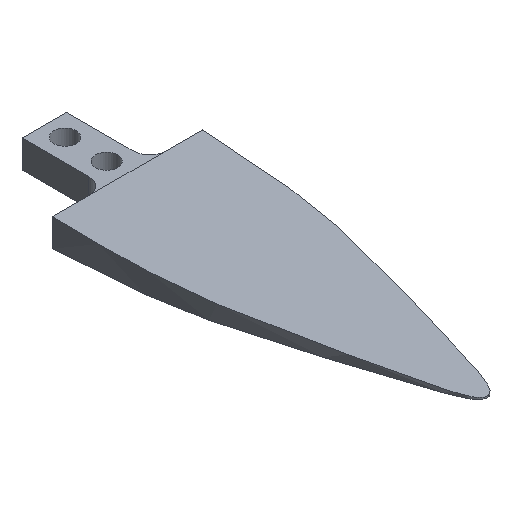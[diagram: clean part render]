
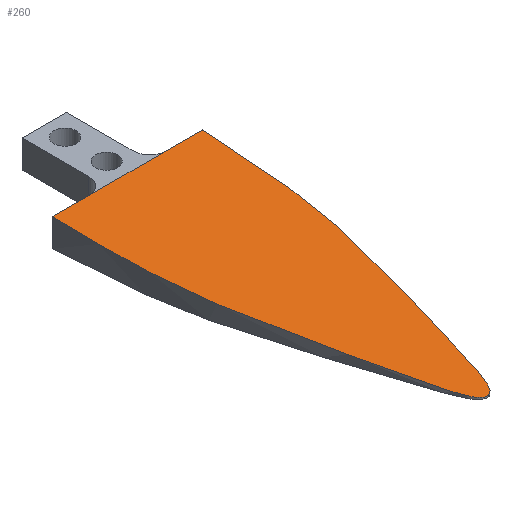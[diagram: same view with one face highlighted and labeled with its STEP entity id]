
A CAD part, isometric view. The second image highlights one B-rep face of the part: STEP entity #260.
In plain terms, the highlighted planar face has unit normal (0, -0.036, 0.999).
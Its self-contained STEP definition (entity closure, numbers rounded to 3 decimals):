
#19=B_SPLINE_CURVE_WITH_KNOTS('',3,(#492,#493,#494,#495,#496,#497,#498,
#499,#500,#501,#502,#503,#504,#505,#506,#507,#508,#509,#510,#511,#512,#513,
#514,#515,#516,#517,#518,#519,#520,#521,#522),.UNSPECIFIED.,.F.,.F.,(4,
3,3,3,3,3,3,3,3,3,4),(-6.652,-6.048,-5.292,
-4.631,-4.308,-4.098,-3.711,
-3.509,-2.261,-1.633,0.),.UNSPECIFIED.);
#20=B_SPLINE_CURVE_WITH_KNOTS('',3,(#524,#525,#526,#527,#528,#529,#530,
#531,#532,#533,#534,#535,#536,#537,#538,#539,#540,#541,#542,#543,#544,#545,
#546,#547,#548,#549,#550,#551,#552,#553,#554,#555,#556,#557),
 .UNSPECIFIED.,.F.,.F.,(4,3,3,3,3,3,3,3,3,3,3,4),(-4.586,-3.44,
-2.981,-2.12,-1.865,-1.637,
-0.819,-0.533,-0.362,-0.222,
-0.049,0.),.UNSPECIFIED.);
#35=PLANE('',#284);
#49=FACE_OUTER_BOUND('',#70,.T.);
#70=EDGE_LOOP('',(#234,#235,#236,#237,#238));
#82=LINE('',#392,#103);
#86=LINE('',#400,#107);
#91=LINE('',#409,#112);
#103=VECTOR('',#327,10.);
#107=VECTOR('',#337,10.);
#112=VECTOR('',#344,10.);
#124=VERTEX_POINT('',#355);
#129=VERTEX_POINT('',#368);
#138=VERTEX_POINT('',#399);
#141=VERTEX_POINT('',#407);
#143=VERTEX_POINT('',#490);
#162=EDGE_CURVE('',#129,#124,#82,.T.);
#166=EDGE_CURVE('',#138,#129,#86,.T.);
#171=EDGE_CURVE('',#124,#141,#91,.T.);
#175=EDGE_CURVE('',#143,#141,#19,.T.);
#176=EDGE_CURVE('',#138,#143,#20,.T.);
#234=ORIENTED_EDGE('',*,*,#175,.F.);
#235=ORIENTED_EDGE('',*,*,#176,.F.);
#236=ORIENTED_EDGE('',*,*,#166,.T.);
#237=ORIENTED_EDGE('',*,*,#162,.T.);
#238=ORIENTED_EDGE('',*,*,#171,.T.);
#260=ADVANCED_FACE('',(#49),#35,.F.);
#284=AXIS2_PLACEMENT_3D('',#523,#348,#349);
#327=DIRECTION('',(-1.,0.,0.));
#337=DIRECTION('',(-1.,0.,0.));
#344=DIRECTION('',(-1.,0.,0.));
#348=DIRECTION('center_axis',(0.,0.036,-0.999));
#349=DIRECTION('ref_axis',(-1.,0.,0.));
#355=CARTESIAN_POINT('',(-7.,0.,2.5));
#368=CARTESIAN_POINT('',(7.,0.,2.5));
#392=CARTESIAN_POINT('',(13.534,0.,2.5));
#399=CARTESIAN_POINT('',(13.534,0.,2.5));
#400=CARTESIAN_POINT('',(13.534,0.,2.5));
#407=CARTESIAN_POINT('',(-13.534,0.,2.5));
#409=CARTESIAN_POINT('',(13.534,0.,2.5));
#490=CARTESIAN_POINT('',(0.,-64.781,0.15));
#492=CARTESIAN_POINT('Ctrl Pts',(0.,-64.781,
0.15));
#493=CARTESIAN_POINT('Ctrl Pts',(-0.412,-64.781,0.15));
#494=CARTESIAN_POINT('Ctrl Pts',(-0.787,-64.53,0.159));
#495=CARTESIAN_POINT('Ctrl Pts',(-1.062,-64.223,0.17));
#496=CARTESIAN_POINT('Ctrl Pts',(-1.405,-63.838,0.184));
#497=CARTESIAN_POINT('Ctrl Pts',(-1.707,-63.302,0.204));
#498=CARTESIAN_POINT('Ctrl Pts',(-2.041,-62.528,0.232));
#499=CARTESIAN_POINT('Ctrl Pts',(-2.334,-61.851,0.256));
#500=CARTESIAN_POINT('Ctrl Pts',(-2.706,-60.886,0.291));
#501=CARTESIAN_POINT('Ctrl Pts',(-3.37,-58.706,0.37));
#502=CARTESIAN_POINT('Ctrl Pts',(-3.694,-57.643,0.409));
#503=CARTESIAN_POINT('Ctrl Pts',(-4.087,-56.29,0.458));
#504=CARTESIAN_POINT('Ctrl Pts',(-4.577,-54.542,0.521));
#505=CARTESIAN_POINT('Ctrl Pts',(-4.896,-53.403,0.563));
#506=CARTESIAN_POINT('Ctrl Pts',(-5.274,-52.036,0.612));
#507=CARTESIAN_POINT('Ctrl Pts',(-5.621,-50.748,0.659));
#508=CARTESIAN_POINT('Ctrl Pts',(-6.262,-48.377,0.745));
#509=CARTESIAN_POINT('Ctrl Pts',(-6.851,-46.107,0.827));
#510=CARTESIAN_POINT('Ctrl Pts',(-7.433,-43.815,0.911));
#511=CARTESIAN_POINT('Ctrl Pts',(-7.736,-42.619,0.954));
#512=CARTESIAN_POINT('Ctrl Pts',(-8.044,-41.392,0.998));
#513=CARTESIAN_POINT('Ctrl Pts',(-8.342,-40.199,1.042));
#514=CARTESIAN_POINT('Ctrl Pts',(-10.183,-32.834,1.309));
#515=CARTESIAN_POINT('Ctrl Pts',(-11.14,-28.798,1.455));
#516=CARTESIAN_POINT('Ctrl Pts',(-11.803,-24.934,1.595));
#517=CARTESIAN_POINT('Ctrl Pts',(-12.136,-22.991,1.666));
#518=CARTESIAN_POINT('Ctrl Pts',(-12.407,-21.077,1.735));
#519=CARTESIAN_POINT('Ctrl Pts',(-12.641,-18.829,1.817));
#520=CARTESIAN_POINT('Ctrl Pts',(-13.248,-12.975,2.029));
#521=CARTESIAN_POINT('Ctrl Pts',(-13.534,-5.441,2.303));
#522=CARTESIAN_POINT('Ctrl Pts',(-13.534,0.,
2.5));
#523=CARTESIAN_POINT('Origin',(0.,-0.091,2.497));
#524=CARTESIAN_POINT('Ctrl Pts',(13.534,0.,
2.5));
#525=CARTESIAN_POINT('Ctrl Pts',(13.534,-3.965,2.356));
#526=CARTESIAN_POINT('Ctrl Pts',(13.359,-10.04,2.136));
#527=CARTESIAN_POINT('Ctrl Pts',(12.926,-15.651,1.932));
#528=CARTESIAN_POINT('Ctrl Pts',(12.752,-17.895,1.851));
#529=CARTESIAN_POINT('Ctrl Pts',(12.529,-20.041,1.773));
#530=CARTESIAN_POINT('Ctrl Pts',(12.258,-21.999,1.702));
#531=CARTESIAN_POINT('Ctrl Pts',(11.749,-25.676,1.569));
#532=CARTESIAN_POINT('Ctrl Pts',(11.064,-28.978,1.449));
#533=CARTESIAN_POINT('Ctrl Pts',(10.27,-32.347,1.327));
#534=CARTESIAN_POINT('Ctrl Pts',(10.035,-33.347,1.29));
#535=CARTESIAN_POINT('Ctrl Pts',(9.79,-34.353,1.254));
#536=CARTESIAN_POINT('Ctrl Pts',(9.539,-35.376,1.217));
#537=CARTESIAN_POINT('Ctrl Pts',(9.315,-36.288,1.184));
#538=CARTESIAN_POINT('Ctrl Pts',(9.067,-37.291,1.147));
#539=CARTESIAN_POINT('Ctrl Pts',(8.785,-38.422,1.106));
#540=CARTESIAN_POINT('Ctrl Pts',(7.773,-42.491,0.959));
#541=CARTESIAN_POINT('Ctrl Pts',(6.409,-47.936,0.761));
#542=CARTESIAN_POINT('Ctrl Pts',(4.937,-53.25,0.568));
#543=CARTESIAN_POINT('Ctrl Pts',(4.423,-55.104,0.501));
#544=CARTESIAN_POINT('Ctrl Pts',(3.898,-56.972,0.433));
#545=CARTESIAN_POINT('Ctrl Pts',(3.377,-58.684,0.371));
#546=CARTESIAN_POINT('Ctrl Pts',(3.065,-59.709,0.334));
#547=CARTESIAN_POINT('Ctrl Pts',(2.757,-60.663,0.299));
#548=CARTESIAN_POINT('Ctrl Pts',(2.459,-61.472,0.27));
#549=CARTESIAN_POINT('Ctrl Pts',(2.215,-62.136,0.246));
#550=CARTESIAN_POINT('Ctrl Pts',(1.969,-62.74,0.224));
#551=CARTESIAN_POINT('Ctrl Pts',(1.691,-63.27,0.205));
#552=CARTESIAN_POINT('Ctrl Pts',(1.348,-63.925,0.181));
#553=CARTESIAN_POINT('Ctrl Pts',(0.995,-64.447,0.162));
#554=CARTESIAN_POINT('Ctrl Pts',(0.469,-64.68,0.154));
#555=CARTESIAN_POINT('Ctrl Pts',(0.32,-64.746,0.151));
#556=CARTESIAN_POINT('Ctrl Pts',(0.163,-64.781,0.15));
#557=CARTESIAN_POINT('Ctrl Pts',(0.,-64.781,
0.15));
